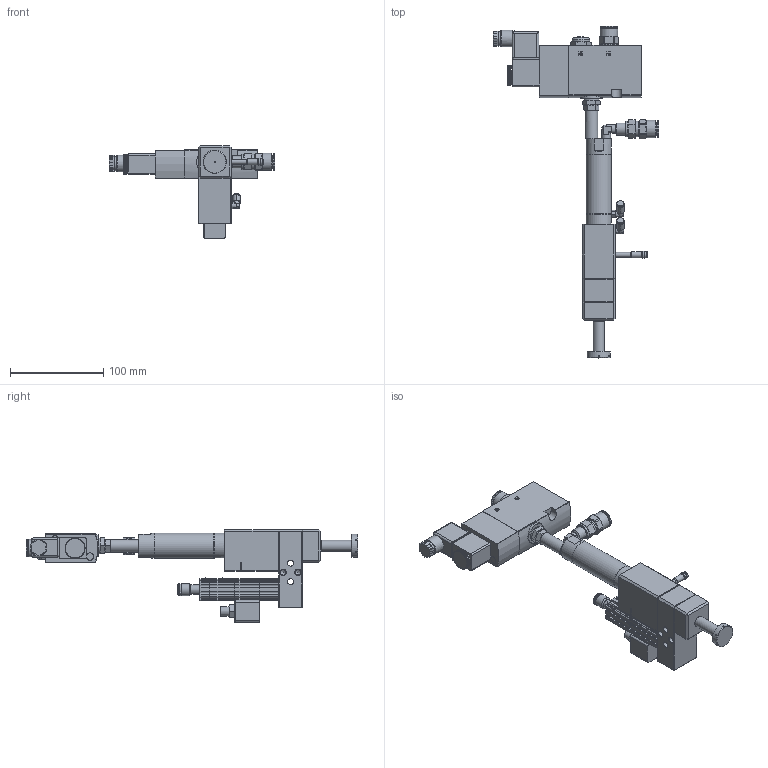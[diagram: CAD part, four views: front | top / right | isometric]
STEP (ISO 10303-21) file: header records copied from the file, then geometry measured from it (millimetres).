
FILE_DESCRIPTION (( 'STEP AP214' ), '1' );
FILE_NAME ('DAVR 100_200.STEP', '2023-07-17T06:19:23', ( '' ), ( '' ), 'SwSTEP 2.0', 'SolidWorks 2022', '' );
FILE_SCHEMA (( 'AUTOMOTIVE_DESIGN' ));
Length unit declared in the file: millimetre
Products named in the file (1): DAVR 100_200
Bounding box: 177.55 x 356.88 x 99.81 mm (x, y, z)
Volume: 549254.7 mm3; surface area: 102941.2 mm2
Topology: 1 solids, 1 shells, 2161 faces, 5473 edges, 3272 vertices
Faces by surface type: plane 1327, cylinder 429, cone 388, torus 7, bspline 6, sphere 4
Full cylindrical faces by diameter (mm): 1.3 x6, 2.5 x1, 4.3 x1, 5 x3, 5.5 x1, 6 x7, 6.5 x2, 6.55 x2, 8 x1, 9.5 x2, 9.97 x1, 10 x2, 12 x1, 13 x2, 13.5 x2, 13.6 x1, 15.2 x1, 16 x1, 16.7 x2, 18 x1, 18.5 x2, 18.8 x2, 19 x1, 20 x1, 21 x1, 22 x1, 22.8 x1, 23.5 x1, 25 x1, 27 x3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
Entity records: 63806 total; most frequent: CARTESIAN_POINT 14488, ORIENTED_EDGE 10404, DIRECTION 9905, EDGE_CURVE 5202, AXIS2_PLACEMENT_3D 3375, VERTEX_POINT 3210, VECTOR 3155, LINE 3155
